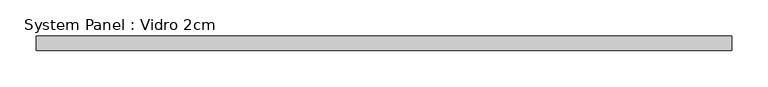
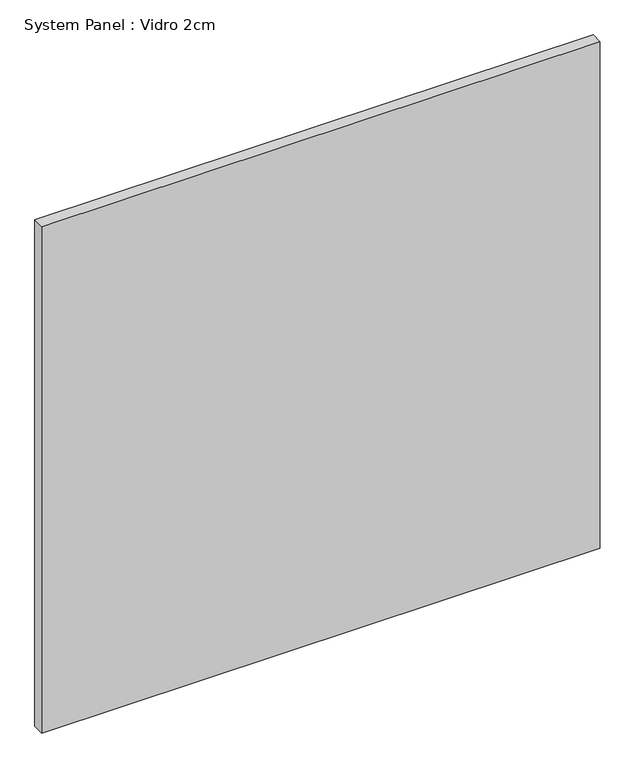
"""IFC4 building model written with IfcOpenShell, lengths in millimetres: plate geometry, System Panel : Vidro 2cm."""

from ifc_helpers import new_model, si_unit, origin, origin_with_axes, place, context, project, spatial, polyline, outline, extrude, source, transform, mapped, element, save


def system_panel_vidro_2cm_2af9035d(model_context):
    return source(origin(), model_context, "Body", "SweptSolid", [
        extrude(outline(polyline([(480.0000002, -20.0), (-480.0000002, -20.0), (-480.0000002, 0.0), (480.0000002, 0.0), (480.0000002, -20.0)])), origin_with_axes(), (0.0, 0.0, 1.0), 920.0),
    ])


if __name__ == "__main__":
    model = new_model("IFC4")
    model_context = context("Model", 3, world=origin())
    ifc_project = project(units=[si_unit("LENGTHUNIT", "METRE", prefix="MILLI")], contexts=[model_context])
    site = spatial("IfcSite", under=ifc_project)
    building = spatial("IfcBuilding", under=site)
    placement = place(None, origin())
    system_panel_vidro_2cm_shape = system_panel_vidro_2cm_2af9035d(model_context)
    element("IfcPlate", 1, ObjectType="System Panel : Vidro 2cm", at=placement, inside=building, context=model_context, shape_type="MappedRepresentation", body=[
        mapped(system_panel_vidro_2cm_shape, transform((0.0, 0.0, 0.0), x_axis=(1.0, 0.0, 0.0), y_axis=(0.0, 1.0, 0.0), z_axis=(0.0, 0.0, 1.0))),
    ])
    save(model, "model.ifc")
